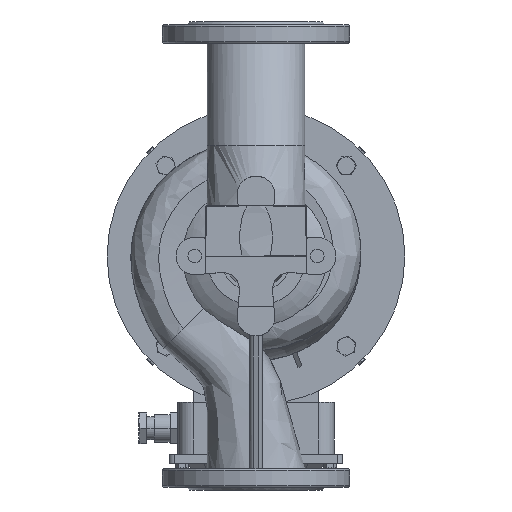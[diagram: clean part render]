
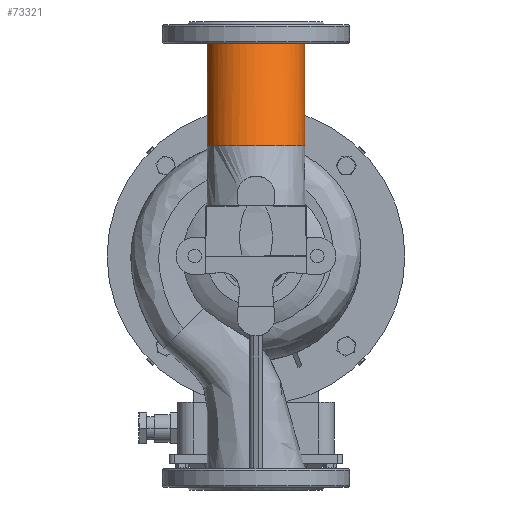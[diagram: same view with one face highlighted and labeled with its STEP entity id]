
A CAD part, front view. The second image highlights one B-rep face of the part: STEP entity #73321.
In plain terms, the highlighted free-form (B-spline) face has degree [3, 1] with [4, 2] control points.
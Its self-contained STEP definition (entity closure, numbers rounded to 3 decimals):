
#1090 = VERTEX_POINT ( 'NONE', #32378 ) ;
#1317 = CARTESIAN_POINT ( 'NONE',  ( 57.5, 0., 250. ) ) ;
#1983 = CARTESIAN_POINT ( 'NONE',  ( -57.5, -56.148, 129.591 ) ) ;
#3351 = VERTEX_POINT ( 'NONE', #1983 ) ;
#5267 = VERTEX_POINT ( 'NONE', #70122 ) ;
#6651 = CARTESIAN_POINT ( 'NONE',  ( 0., -56.148, 129.591 ) ) ;
#6916 = CARTESIAN_POINT ( 'NONE',  ( 57.5, -56.148, 129.591 ) ) ;
#7292 = FACE_OUTER_BOUND ( 'NONE', #69431, .T. ) ;
#8066 = CARTESIAN_POINT ( 'NONE',  ( -57.5, -115., 250. ) ) ;
#15355 = CARTESIAN_POINT ( 'NONE',  ( -57.5, 0., 250. ) ) ;
#18640 = DIRECTION ( 'NONE',  ( 0., 0., -1. ) ) ;
#19282 = CARTESIAN_POINT ( 'NONE',  ( 57.5, -171.148, 129.591 ) ) ;
#23047 = ORIENTED_EDGE ( 'NONE', *, *, #39922, .F. ) ;
#23772 = VERTEX_POINT ( 'NONE', #15355 ) ;
#23910 = DIRECTION ( 'NONE',  ( -1., 0., 0. ) ) ;
#25875 =( BOUNDED_CURVE ( )  B_SPLINE_CURVE ( 3, ( #52719, #53449, #8066, #30944 ),
 .UNSPECIFIED., .F., .F. ) 
 B_SPLINE_CURVE_WITH_KNOTS ( ( 4, 4 ),
 ( 0.082, 0.262 ),
 .UNSPECIFIED. ) 
 CURVE ( )  GEOMETRIC_REPRESENTATION_ITEM ( )  RATIONAL_B_SPLINE_CURVE ( ( 1., 0.333, 0.333, 1. ) ) 
 REPRESENTATION_ITEM ( '' )  );
#28956 = B_SPLINE_CURVE_WITH_KNOTS ( 'NONE', 1,
 ( #31683, #44036 ),
 .UNSPECIFIED., .F., .F.,
 ( 2, 2 ),
 ( 0., 1. ),
 .UNSPECIFIED. ) ;
#29048 = CARTESIAN_POINT ( 'NONE',  ( 57.5, 0., 250. ) ) ;
#29073 = CARTESIAN_POINT ( 'NONE',  ( -57.5, -56.148, 129.591 ) ) ;
#30944 = CARTESIAN_POINT ( 'NONE',  ( -57.5, 0., 250. ) ) ;
#31683 = CARTESIAN_POINT ( 'NONE',  ( -57.5, -56.148, 129.591 ) ) ;
#32240 = EDGE_CURVE ( 'NONE', #3351, #23772, #28956, .T. ) ;
#32378 = CARTESIAN_POINT ( 'NONE',  ( 57.5, -56.148, 129.591 ) ) ;
#37101 = ORIENTED_EDGE ( 'NONE', *, *, #38102, .T. ) ;
#38020 = ORIENTED_EDGE ( 'NONE', *, *, #59687, .T. ) ;
#38102 = EDGE_CURVE ( 'NONE', #5267, #23772, #25875, .T. ) ;
#39922 = EDGE_CURVE ( 'NONE', #1090, #3351, #65581, .T. ) ;
#40310 = CARTESIAN_POINT ( 'NONE',  ( 57.5, -56.148, 129.591 ) ) ;
#40940 = ORIENTED_EDGE ( 'NONE', *, *, #32240, .F. ) ;
#44036 = CARTESIAN_POINT ( 'NONE',  ( -57.5, 0., 250. ) ) ;
#48421 =( BOUNDED_SURFACE ( )  B_SPLINE_SURFACE ( 3, 1, ( 
 ( #6916, #1317 ),
 ( #19282, #53421 ),
 ( #64316, #53053 ),
 ( #29073, #57950 ) ),
 .UNSPECIFIED., .F., .F., .F. ) 
 B_SPLINE_SURFACE_WITH_KNOTS ( ( 4, 4 ),
 ( 2, 2 ),
 ( 0.5, 1. ),
 ( 0., 1. ),
 .UNSPECIFIED. ) 
 GEOMETRIC_REPRESENTATION_ITEM ( )  RATIONAL_B_SPLINE_SURFACE ( (
 ( 1., 1.),
 ( 0.333, 0.333),
 ( 0.333, 0.333),
 ( 1., 1.) ) ) 
 REPRESENTATION_ITEM ( '' )  SURFACE ( )  );
#48810 = AXIS2_PLACEMENT_3D ( 'NONE', #6651, #18640, #23910 ) ;
#50347 = B_SPLINE_CURVE_WITH_KNOTS ( 'NONE', 1,
 ( #40310, #29048 ),
 .UNSPECIFIED., .F., .F.,
 ( 2, 2 ),
 ( 0., 1. ),
 .UNSPECIFIED. ) ;
#52719 = CARTESIAN_POINT ( 'NONE',  ( 57.5, 0., 250. ) ) ;
#53053 = CARTESIAN_POINT ( 'NONE',  ( -57.5, -115., 250. ) ) ;
#53421 = CARTESIAN_POINT ( 'NONE',  ( 57.5, -115., 250. ) ) ;
#53449 = CARTESIAN_POINT ( 'NONE',  ( 57.5, -115., 250. ) ) ;
#57950 = CARTESIAN_POINT ( 'NONE',  ( -57.5, 0., 250. ) ) ;
#59687 = EDGE_CURVE ( 'NONE', #1090, #5267, #50347, .T. ) ;
#64316 = CARTESIAN_POINT ( 'NONE',  ( -57.5, -171.148, 129.591 ) ) ;
#65581 = CIRCLE ( 'NONE', #48810, 57.5 ) ;
#69431 = EDGE_LOOP ( 'NONE', ( #23047, #38020, #37101, #40940 ) ) ;
#70122 = CARTESIAN_POINT ( 'NONE',  ( 57.5, 0., 250. ) ) ;
#73321 = ADVANCED_FACE ( 'NONE', ( #7292 ), #48421, .F. ) ;
